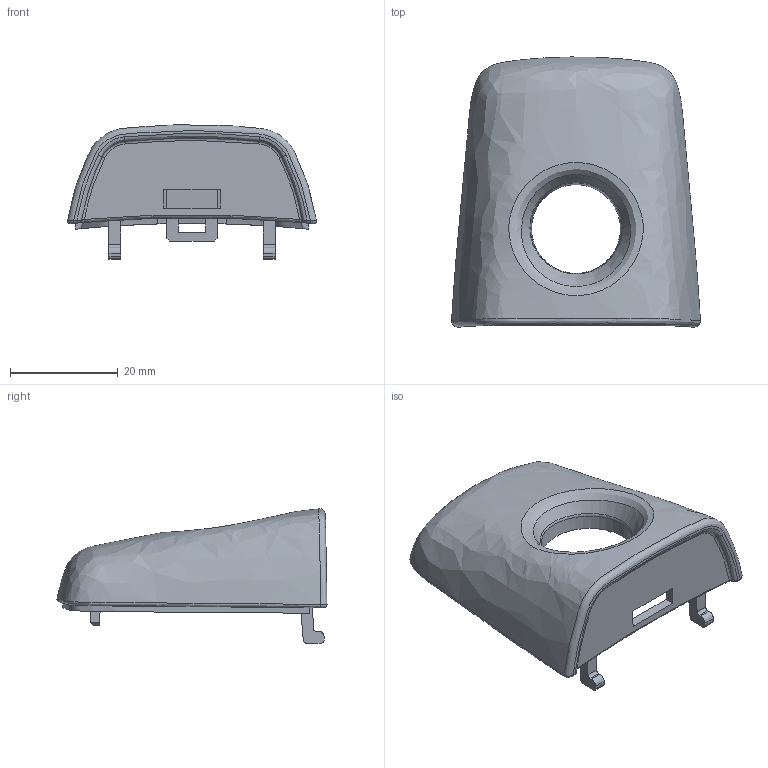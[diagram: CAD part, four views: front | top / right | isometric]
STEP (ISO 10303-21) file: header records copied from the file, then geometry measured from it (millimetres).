
FILE_DESCRIPTION(/* description */ (''),/* implementation_level */ '2;1');
FILE_NAME(/* name */ 'yt-1.stp',/* time_stamp */ '2015-03-01T21:42:57+08:00',/* author */ (''),/* organization */ (''),/* preprocessor_version */ 'ST-DEVELOPER v15',/* originating_system */ 'SIEMENS PLM Software NX 8.5',/* authorisation */ '');
FILE_SCHEMA (('CONFIG_CONTROL_DESIGN'));
Products named in the file (1): YT_stp
Bounding box: 46.11 x 50.02 x 24.86 mm (x, y, z)
Volume: 8739.5 mm3; surface area: 8064.6 mm2
Topology: 1 solids, 1 shells, 94 faces, 255 edges, 167 vertices
Faces by surface type: plane 54, bspline 25, cylinder 10, cone 4, torus 1
Entity records: 41821 total; most frequent: CARTESIAN_POINT 39709, ORIENTED_EDGE 498, DIRECTION 306, EDGE_CURVE 249, VERTEX_POINT 165, EDGE_LOOP 108, LINE 106, VECTOR 106
